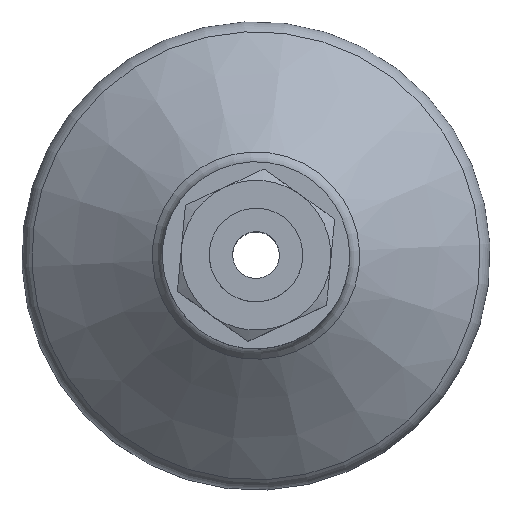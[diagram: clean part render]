
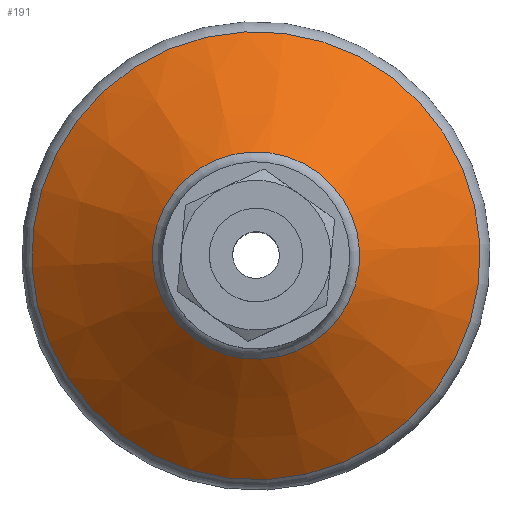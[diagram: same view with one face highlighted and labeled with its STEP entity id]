
A CAD part, top view. The second image highlights one B-rep face of the part: STEP entity #191.
In plain terms, the highlighted conical face has half-angle 49.959 degrees and reference radius 5.535 mm.
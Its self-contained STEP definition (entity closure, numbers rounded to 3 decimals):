
#191=ADVANCED_FACE('',(#377,#378),#379,.T.);
#377=FACE_OUTER_BOUND('',#569,.T.);
#378=FACE_BOUND('',#570,.T.);
#379=CONICAL_SURFACE('',#571,5.535,0.872);
#569=EDGE_LOOP('',(#881));
#570=EDGE_LOOP('',(#882));
#571=AXIS2_PLACEMENT_3D('',#883,#884,#885);
#881=ORIENTED_EDGE('',*,*,#1063,.T.);
#882=ORIENTED_EDGE('',*,*,#1068,.F.);
#883=CARTESIAN_POINT('',(0.,0.0,27.052));
#884=DIRECTION('',(0.,-0.0,-1.0));
#885=DIRECTION('',(1.0,0.0,0.));
#1063=EDGE_CURVE('',#1225,#1225,#1226,.T.);
#1068=EDGE_CURVE('',#1233,#1233,#1234,.T.);
#1225=VERTEX_POINT('',#1486);
#1226=CIRCLE('',#1487,11.965);
#1233=VERTEX_POINT('',#1494);
#1234=CIRCLE('',#1495,5.535);
#1486=CARTESIAN_POINT('',(-11.965,0.0,21.648));
#1487=AXIS2_PLACEMENT_3D('',#1621,#1622,#1623);
#1494=CARTESIAN_POINT('',(-5.535,0.0,27.052));
#1495=AXIS2_PLACEMENT_3D('',#1630,#1631,#1632);
#1621=CARTESIAN_POINT('',(0.,0.0,21.648));
#1622=DIRECTION('',(0.,0.0,1.0));
#1623=DIRECTION('',(-1.0,0.0,0.));
#1630=CARTESIAN_POINT('',(0.,0.0,27.052));
#1631=DIRECTION('',(0.,0.0,1.0));
#1632=DIRECTION('',(-1.0,0.0,0.));
